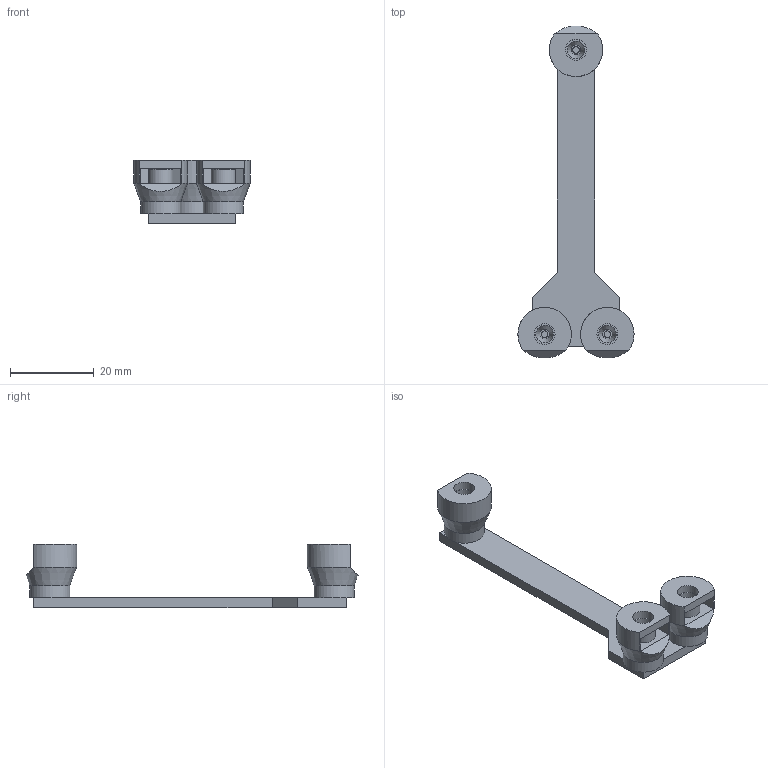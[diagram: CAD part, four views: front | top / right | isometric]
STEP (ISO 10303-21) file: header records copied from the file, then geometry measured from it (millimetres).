
FILE_DESCRIPTION(/* description */ (''),/* implementation_level */ '2;1');
FILE_NAME(/* name */ 'V:\Flow\Inventor\Mischertests\gerade.stp',/* time_stamp */ '2019-12-20T09:41:40+01:00',/* author */ ('JN'),/* organization */ (''),/* preprocessor_version */ 'ST-DEVELOPER v17',/* originating_system */ 'Autodesk Inventor 2018',/* authorisation */ '');
FILE_SCHEMA (('AUTOMOTIVE_DESIGN { 1 0 10303 214 3 1 1 }'));
Length unit declared in the file: millimetre
Products named in the file (3): SAR; Flow Reaktor 16 - Test Mischzonen 2; 10-32 Mutter einschieben
Assembly tree (4 placements, depth 2):
  SAR
    Flow Reaktor 16 - Test Mischzonen 2
    10-32 Mutter einschieben  x3
Bounding box: 27.8 x 79.4 x 15.1 mm (x, y, z)
Volume: 4525.4 mm3; surface area: 5664.3 mm2
Topology: 7 solids, 7 shells, 94 faces, 237 edges, 159 vertices
Faces by surface type: plane 64, cylinder 24, cone 6
Full cylindrical faces by diameter (mm): 1.6 x3, 2.4 x3, 5 x9, 5.8 x3, 9.6 x3
Entity records: 1651 total; most frequent: DIRECTION 275, CARTESIAN_POINT 275, ORIENTED_EDGE 258, EDGE_CURVE 129, AXIS2_PLACEMENT_3D 93, LINE 89, VECTOR 89, VERTEX_POINT 87
